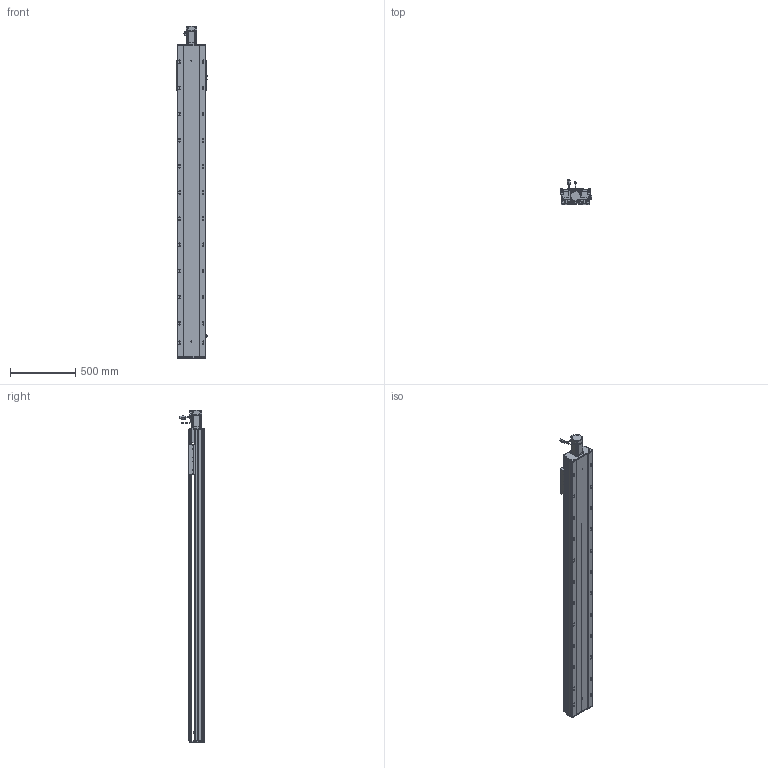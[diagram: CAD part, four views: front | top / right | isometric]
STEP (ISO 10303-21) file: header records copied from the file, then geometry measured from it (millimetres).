
FILE_DESCRIPTION (( 'STEP AP203' ), '1' );
FILE_NAME ('RY220-L2525-800-MK-邧嶺.SLDASM_1950.step', '2022-08-06T08:58:31', ( '' ), ( '' ), 'SwSTEP 2.0', 'SolidWorks 2016', '' );
FILE_SCHEMA (( 'CONFIG_CONTROL_DESIGN' ));
Length unit declared in the file: millimetre
Products named in the file (12): 滅袉蝶18-15; RY220电机支撑座FK20（PCD90M6）; RY220-800-奻裔啣-MK_1950; RY220菁釱MK-800-邧嶺_1950; RY220半封闭25-32螺母铝滑块; 覜茼ん672; 怢湛750W_ECMA-CX0807ES; 滅袉蝶18-12; RY220-L2525-800-MK-邧嶺.SLDASM_1950; RY220綴裔啣; RY220-俋离672覜茼んえ; RY220ヶ裔啣
Assembly tree (15 placements, depth 2):
  RY220-L2525-800-MK-邧嶺.SLDASM_1950
    RY220菁釱MK-800-邧嶺_1950
    RY220电机支撑座FK20（PCD90M6）
    怢湛750W_ECMA-CX0807ES
    滅袉蝶18-12  x2
    RY220ヶ裔啣
    RY220綴裔啣
    覜茼ん672  x3
    RY220半封闭25-32螺母铝滑块
    RY220-800-奻裔啣-MK_1950
    RY220-俋离672覜茼んえ
    滅袉蝶18-15  x2
Bounding box: 238.7 x 187.27 x 2540.3 mm (x, y, z)
Volume: 18696993.1 mm3; surface area: 5499814 mm2
Topology: 16 solids, 16 shells, 2432 faces, 6750 edges, 4226 vertices
Faces by surface type: cylinder 1138, plane 915, cone 317, bspline 36, sphere 16, torus 10
Entity records: 80120 total; most frequent: CARTESIAN_POINT 22575, ORIENTED_EDGE 11904, DIRECTION 11419, EDGE_CURVE 5952, AXIS2_PLACEMENT_3D 4073, VERTEX_POINT 3882, VECTOR 3273, LINE 3273
